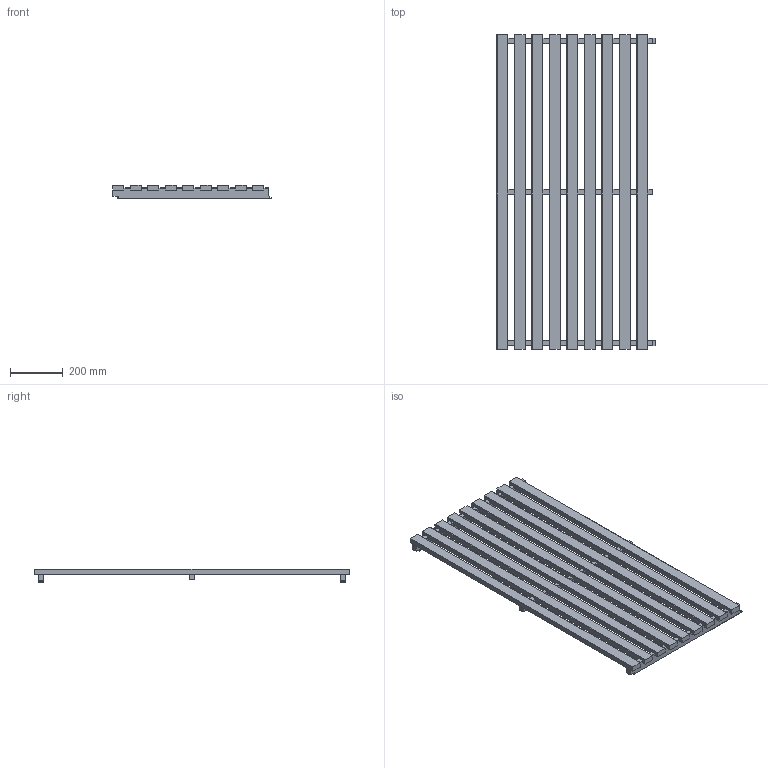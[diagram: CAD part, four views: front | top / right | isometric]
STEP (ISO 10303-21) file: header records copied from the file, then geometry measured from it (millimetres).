
FILE_DESCRIPTION (( 'STEP AP214' ), '1' );
FILE_NAME ('Lao 4.2.2.STEP', '2024-05-31T09:16:43', ( 'UTILISATEUR' ), ( '' ), 'SwSTEP 2.0', 'SolidWorks 2021', '' );
FILE_SCHEMA (( 'AUTOMOTIVE_DESIGN' ));
Length unit declared in the file: millimetre
Products named in the file (4): Contrelatte centrale 20x28_4.2.2; Contrelatte 20x42_4.2.2; Lame aboutée 20x42x1199mm_1199; Lao 4.2.2
Assembly tree (12 placements, depth 2):
  Lao 4.2.2
    Contrelatte 20x42_4.2.2  x2
    Lame aboutée 20x42x1199mm_1199  x9
    Contrelatte centrale 20x28_4.2.2
Bounding box: 603 x 1199 x 52 mm (x, y, z)
Volume: 10108687 mm3; surface area: 1511004.4 mm2
Topology: 12 solids, 12 shells, 312 faces, 864 edges, 576 vertices
Faces by surface type: plane 290, cylinder 22
Entity records: 5448 total; most frequent: CARTESIAN_POINT 957, ORIENTED_EDGE 924, DIRECTION 848, EDGE_CURVE 462, VECTOR 418, LINE 418, VERTEX_POINT 308, AXIS2_PLACEMENT_3D 215
